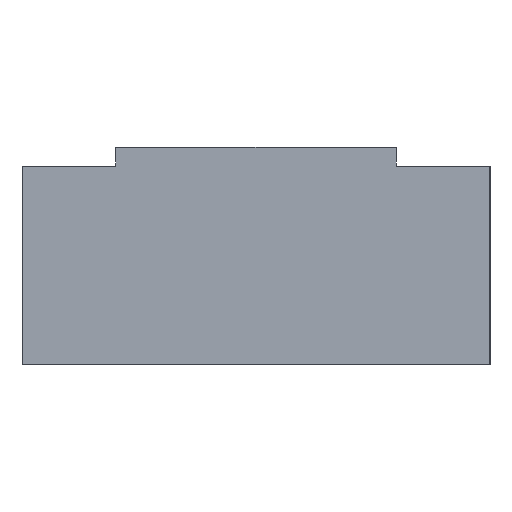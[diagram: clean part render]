
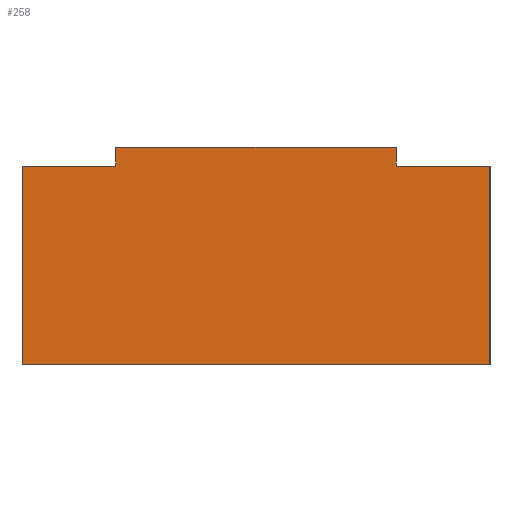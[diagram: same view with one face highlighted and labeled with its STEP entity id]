
A CAD part, left-side view. The second image highlights one B-rep face of the part: STEP entity #258.
In plain terms, the highlighted planar face has unit normal (-1, 0, 0).
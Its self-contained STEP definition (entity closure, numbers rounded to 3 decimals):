
#23 = CARTESIAN_POINT ( 'NONE',  ( -28., -15., 21.2 ) ) ;
#28 = VERTEX_POINT ( 'NONE', #1386 ) ;
#34 = ORIENTED_EDGE ( 'NONE', *, *, #800, .F. ) ;
#42 = DIRECTION ( 'NONE',  ( 0., 0., -1. ) ) ;
#73 = DIRECTION ( 'NONE',  ( 1., 0., 0. ) ) ;
#81 = ORIENTED_EDGE ( 'NONE', *, *, #1071, .F. ) ;
#92 = CARTESIAN_POINT ( 'NONE',  ( -28., -15., 23.2 ) ) ;
#173 = ORIENTED_EDGE ( 'NONE', *, *, #1406, .T. ) ;
#192 = LINE ( 'NONE', #666, #1484 ) ;
#205 = LINE ( 'NONE', #1402, #1500 ) ;
#254 = VERTEX_POINT ( 'NONE', #1568 ) ;
#258 = ADVANCED_FACE ( 'NONE', ( #623 ), #1446, .F. ) ;
#362 = LINE ( 'NONE', #646, #942 ) ;
#372 = EDGE_CURVE ( 'NONE', #1281, #254, #1013, .T. ) ;
#374 = VERTEX_POINT ( 'NONE', #1355 ) ;
#439 = CARTESIAN_POINT ( 'NONE',  ( -28., 25., 21.2 ) ) ;
#441 = CARTESIAN_POINT ( 'NONE',  ( -28., 25., 21.2 ) ) ;
#462 = DIRECTION ( 'NONE',  ( 0., -1., 0. ) ) ;
#466 = CARTESIAN_POINT ( 'NONE',  ( -28., -25., 21.2 ) ) ;
#486 = VECTOR ( 'NONE', #971, 1000. ) ;
#500 = VERTEX_POINT ( 'NONE', #892 ) ;
#513 = DIRECTION ( 'NONE',  ( 0., -1., 0. ) ) ;
#523 = AXIS2_PLACEMENT_3D ( 'NONE', #441, #73, #1074 ) ;
#526 = LINE ( 'NONE', #439, #674 ) ;
#587 = VERTEX_POINT ( 'NONE', #92 ) ;
#623 = FACE_OUTER_BOUND ( 'NONE', #1310, .T. ) ;
#646 = CARTESIAN_POINT ( 'NONE',  ( -28., 15., 23.2 ) ) ;
#666 = CARTESIAN_POINT ( 'NONE',  ( -28., 25., 21.2 ) ) ;
#674 = VECTOR ( 'NONE', #1191, 1000. ) ;
#707 = ORIENTED_EDGE ( 'NONE', *, *, #729, .F. ) ;
#729 = EDGE_CURVE ( 'NONE', #1029, #28, #192, .T. ) ;
#732 = CARTESIAN_POINT ( 'NONE',  ( -28., 25., 21.2 ) ) ;
#800 = EDGE_CURVE ( 'NONE', #587, #1281, #1420, .T. ) ;
#892 = CARTESIAN_POINT ( 'NONE',  ( -28., -25., 0. ) ) ;
#902 = DIRECTION ( 'NONE',  ( 0., -1., 0. ) ) ;
#922 = VECTOR ( 'NONE', #462, 1000. ) ;
#942 = VECTOR ( 'NONE', #1511, 1000. ) ;
#971 = DIRECTION ( 'NONE',  ( 0., 0., -1. ) ) ;
#988 = ORIENTED_EDGE ( 'NONE', *, *, #997, .T. ) ;
#995 = DIRECTION ( 'NONE',  ( 0., -1., 0. ) ) ;
#997 = EDGE_CURVE ( 'NONE', #1029, #1103, #526, .T. ) ;
#1013 = LINE ( 'NONE', #732, #1175 ) ;
#1029 = VERTEX_POINT ( 'NONE', #1078 ) ;
#1038 = CARTESIAN_POINT ( 'NONE',  ( -28., -15., 23.2 ) ) ;
#1071 = EDGE_CURVE ( 'NONE', #374, #587, #1477, .T. ) ;
#1074 = DIRECTION ( 'NONE',  ( 0., 1., 0. ) ) ;
#1078 = CARTESIAN_POINT ( 'NONE',  ( -28., 25., 21.2 ) ) ;
#1087 = EDGE_CURVE ( 'NONE', #254, #500, #1539, .T. ) ;
#1103 = VERTEX_POINT ( 'NONE', #1469 ) ;
#1175 = VECTOR ( 'NONE', #995, 1000. ) ;
#1191 = DIRECTION ( 'NONE',  ( 0., 0., -1. ) ) ;
#1217 = CARTESIAN_POINT ( 'NONE',  ( -28., 15., 23.2 ) ) ;
#1281 = VERTEX_POINT ( 'NONE', #23 ) ;
#1298 = ORIENTED_EDGE ( 'NONE', *, *, #1370, .T. ) ;
#1310 = EDGE_LOOP ( 'NONE', ( #1298, #1327, #1525, #34, #81, #173, #707, #988 ) ) ;
#1327 = ORIENTED_EDGE ( 'NONE', *, *, #1087, .F. ) ;
#1355 = CARTESIAN_POINT ( 'NONE',  ( -28., 15., 23.2 ) ) ;
#1370 = EDGE_CURVE ( 'NONE', #1103, #500, #205, .T. ) ;
#1386 = CARTESIAN_POINT ( 'NONE',  ( -28., 15., 21.2 ) ) ;
#1402 = CARTESIAN_POINT ( 'NONE',  ( -28., 25., 0. ) ) ;
#1406 = EDGE_CURVE ( 'NONE', #374, #28, #362, .T. ) ;
#1420 = LINE ( 'NONE', #1038, #1559 ) ;
#1446 = PLANE ( 'NONE',  #523 ) ;
#1469 = CARTESIAN_POINT ( 'NONE',  ( -28., 25., 0. ) ) ;
#1477 = LINE ( 'NONE', #1217, #922 ) ;
#1484 = VECTOR ( 'NONE', #513, 1000. ) ;
#1500 = VECTOR ( 'NONE', #902, 1000. ) ;
#1511 = DIRECTION ( 'NONE',  ( 0., 0., -1. ) ) ;
#1525 = ORIENTED_EDGE ( 'NONE', *, *, #372, .F. ) ;
#1539 = LINE ( 'NONE', #466, #486 ) ;
#1559 = VECTOR ( 'NONE', #42, 1000. ) ;
#1568 = CARTESIAN_POINT ( 'NONE',  ( -28., -25., 21.2 ) ) ;
